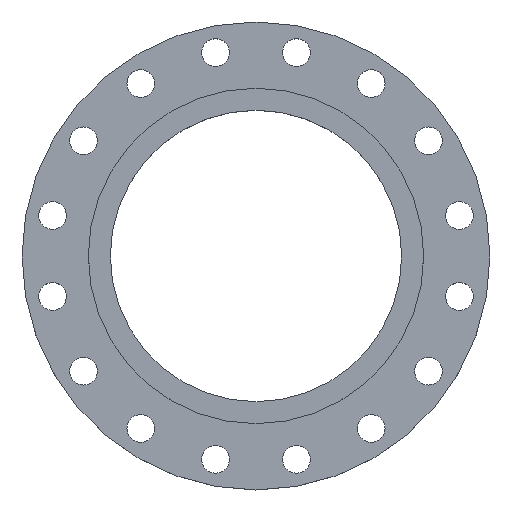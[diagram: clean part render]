
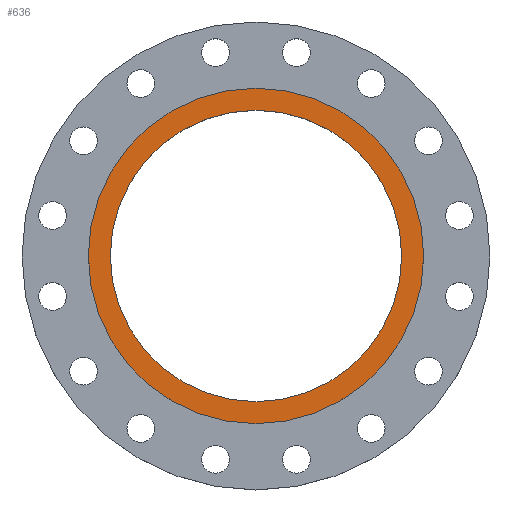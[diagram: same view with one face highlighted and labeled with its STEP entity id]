
A CAD part, top view. The second image highlights one B-rep face of the part: STEP entity #636.
In plain terms, the highlighted planar face has unit normal (0, 0, 1).
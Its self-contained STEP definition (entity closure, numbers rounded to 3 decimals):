
#251 = DIRECTION ( 'NONE',  ( 1., 0., 0. ) ) ;
#255 = DIRECTION ( 'NONE',  ( 0., 0., 1. ) ) ;
#256 = CARTESIAN_POINT ( 'NONE',  ( 0., 0., 0. ) ) ;
#259 = EDGE_CURVE ( 'NONE', #909, #1015, #1554, .T. ) ;
#303 = CIRCLE ( 'NONE', #1566, 205.5 ) ;
#355 = AXIS2_PLACEMENT_3D ( 'NONE', #651, #650, #648 ) ;
#361 = ORIENTED_EDGE ( 'NONE', *, *, #1485, .F. ) ;
#365 = ORIENTED_EDGE ( 'NONE', *, *, #259, .F. ) ;
#367 = ORIENTED_EDGE ( 'NONE', *, *, #551, .F. ) ;
#371 = ORIENTED_EDGE ( 'NONE', *, *, #734, .F. ) ;
#477 = CARTESIAN_POINT ( 'NONE',  ( 205.5, 0., 0. ) ) ;
#547 = VERTEX_POINT ( 'NONE', #1203 ) ;
#549 = CARTESIAN_POINT ( 'NONE',  ( 236.5, 0., 0. ) ) ;
#551 = EDGE_CURVE ( 'NONE', #547, #923, #965, .T. ) ;
#575 = CARTESIAN_POINT ( 'NONE',  ( -205.5, 0., 0. ) ) ;
#636 = ADVANCED_FACE ( 'NONE', ( #712, #711 ), #710, .T. ) ;
#648 = DIRECTION ( 'NONE',  ( -1., 0., 0. ) ) ;
#650 = DIRECTION ( 'NONE',  ( 0., 0., -1. ) ) ;
#651 = CARTESIAN_POINT ( 'NONE',  ( 0., 0., 0. ) ) ;
#706 = DIRECTION ( 'NONE',  ( 1., 0., 0. ) ) ;
#707 = DIRECTION ( 'NONE',  ( 0., 0., 1. ) ) ;
#709 = CARTESIAN_POINT ( 'NONE',  ( 0., 0., 0. ) ) ;
#710 = PLANE ( 'NONE',  #1090 ) ;
#711 = FACE_OUTER_BOUND ( 'NONE', #826, .T. ) ;
#712 = FACE_BOUND ( 'NONE', #846, .T. ) ;
#734 = EDGE_CURVE ( 'NONE', #923, #547, #1224, .T. ) ;
#826 = EDGE_LOOP ( 'NONE', ( #367, #371 ) ) ;
#846 = EDGE_LOOP ( 'NONE', ( #361, #365 ) ) ;
#909 = VERTEX_POINT ( 'NONE', #575 ) ;
#923 = VERTEX_POINT ( 'NONE', #549 ) ;
#965 = CIRCLE ( 'NONE', #967, 236.5 ) ;
#967 = AXIS2_PLACEMENT_3D ( 'NONE', #1202, #1201, #1200 ) ;
#1015 = VERTEX_POINT ( 'NONE', #477 ) ;
#1090 = AXIS2_PLACEMENT_3D ( 'NONE', #709, #707, #706 ) ;
#1200 = DIRECTION ( 'NONE',  ( -1., 0., 0. ) ) ;
#1201 = DIRECTION ( 'NONE',  ( 0., 0., -1. ) ) ;
#1202 = CARTESIAN_POINT ( 'NONE',  ( 0., 0., 0. ) ) ;
#1203 = CARTESIAN_POINT ( 'NONE',  ( -236.5, 0., 0. ) ) ;
#1224 = CIRCLE ( 'NONE', #355, 236.5 ) ;
#1320 = DIRECTION ( 'NONE',  ( 1., 0., 0. ) ) ;
#1321 = DIRECTION ( 'NONE',  ( 0., 0., 1. ) ) ;
#1322 = CARTESIAN_POINT ( 'NONE',  ( 0., 0., 0. ) ) ;
#1466 = AXIS2_PLACEMENT_3D ( 'NONE', #1322, #1321, #1320 ) ;
#1485 = EDGE_CURVE ( 'NONE', #1015, #909, #303, .T. ) ;
#1554 = CIRCLE ( 'NONE', #1466, 205.5 ) ;
#1566 = AXIS2_PLACEMENT_3D ( 'NONE', #256, #255, #251 ) ;
